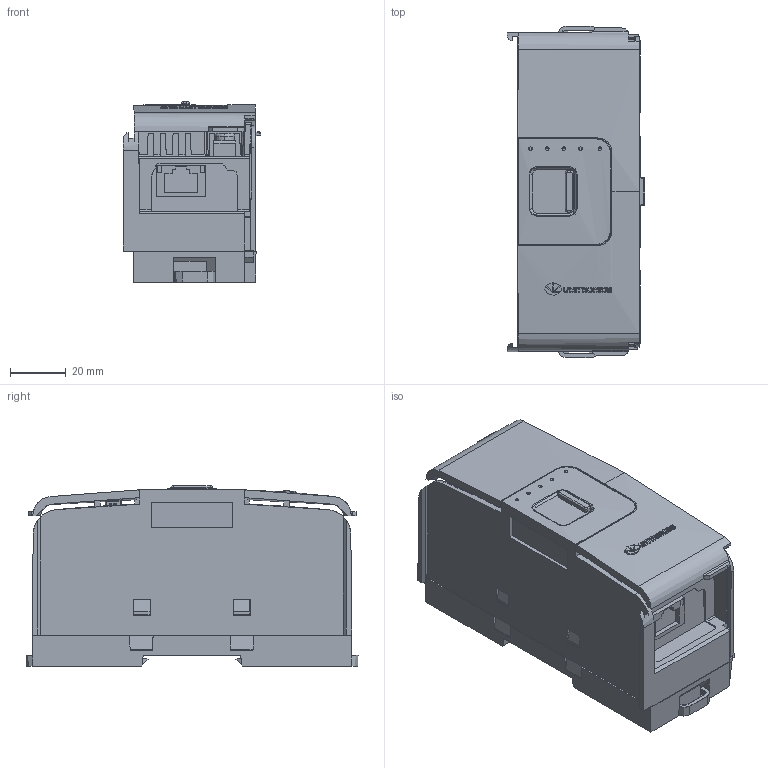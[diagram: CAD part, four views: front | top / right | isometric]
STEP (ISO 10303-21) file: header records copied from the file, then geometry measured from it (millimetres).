
FILE_DESCRIPTION (( 'STEP AP203' ), '1' );
FILE_NAME ('EtherCAT Assmbly.STEP', '2026-09-09T08:43:40', ( '' ), ( '' ), 'SwSTEP 2.0', 'SolidWorks 2024', '' );
FILE_SCHEMA (( 'CONFIG_CONTROL_DESIGN' ));
Products named in the file (1): EtherCAT Assmbly
Bounding box: 49.53 x 119.63 x 64.95 mm (x, y, z)
Volume: 254998.5 mm3; surface area: 57340.1 mm2
Topology: 2 solids, 11 shells, 2044 faces, 5713 edges, 3718 vertices
Faces by surface type: plane 1338, cylinder 336, bspline 285, cone 62, torus 14, sphere 9
Entity records: 72007 total; most frequent: CARTESIAN_POINT 23970, ORIENTED_EDGE 11424, DIRECTION 7887, EDGE_CURVE 5712, VECTOR 3789, LINE 3789, VERTEX_POINT 3718, EDGE_LOOP 2134
